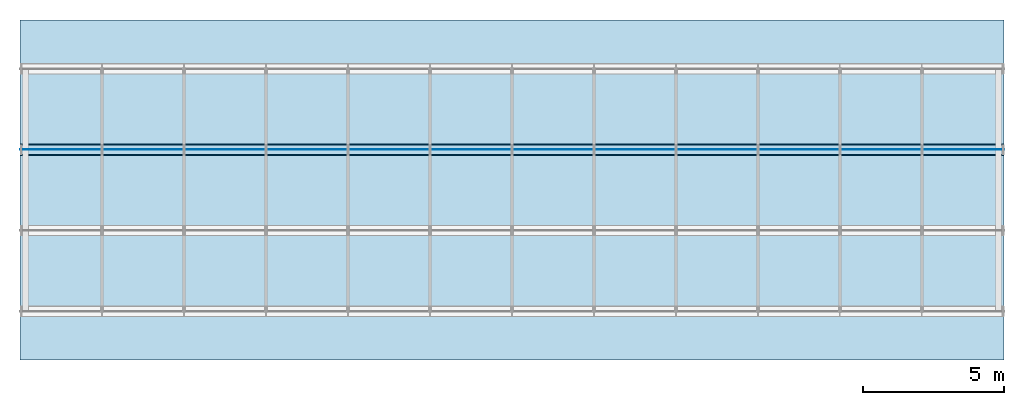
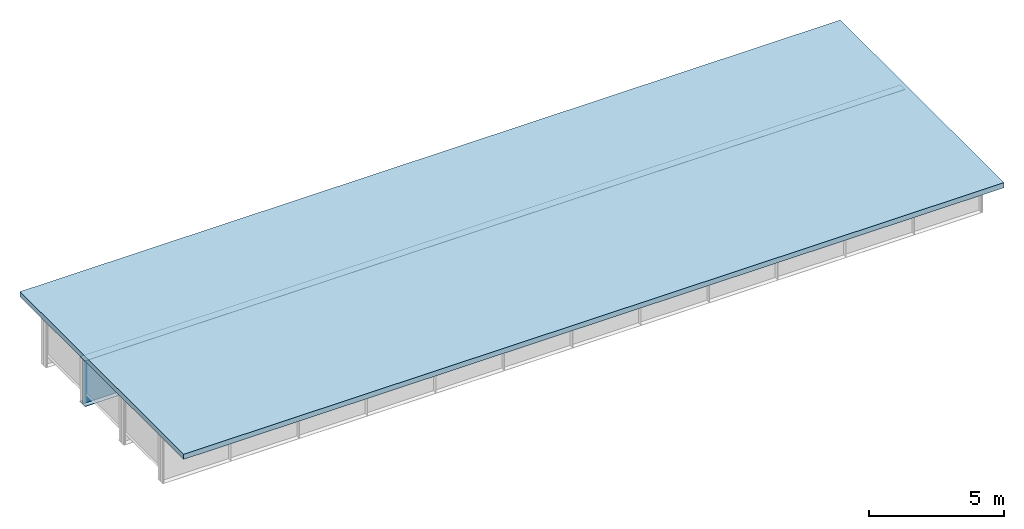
# One storey, part 9 of 13: 3 plates, 1 slab.
"""IFC4 building model written with IfcOpenShell, lengths in metres."""

import ifcopenshell
import ifcopenshell.guid

model = None  # the IFC model being written
_history = None  # IfcOwnerHistory: only IFC2X3 demands one
_inside = {}  # id of a spatial element -> (the spatial element, [elements in it])
_under = {}  # id of a project, library or spatial element -> (it, [spatial elements below it])
_declared = {}  # id of a project -> (the project, [libraries it declares])
_typed = {}  # id of a type object -> (the type object, [elements of that type])
_made_of = {}  # id of a material, layer set ... -> (it, [elements and type objects made of it])


def new_model(schema):
    """Start an empty IFC model of exactly this schema.

    Asked for "IFC4X3", IfcOpenShell would pick the latest addendum, in which some entities
    have other attributes; the version numbers below select the first issue.
    IFC2X3 requires an IfcOwnerHistory on every rooted entity: one is made here for all.
    """
    global model, _history
    if schema == "IFC4X3":
        model = ifcopenshell.file(schema_version=(4, 3, 0, 0))
    else:
        model = ifcopenshell.file(schema=schema)
    _inside.clear()
    _under.clear()
    _declared.clear()
    _typed.clear()
    _made_of.clear()
    _history = None
    if model.schema == "IFC2X3":
        org = make("IfcOrganization", Name="unknown")
        user = make(
            "IfcPersonAndOrganization",
            ThePerson=make("IfcPerson", FamilyName="unknown"),
            TheOrganization=org,
        )
        app = make(
            "IfcApplication",
            ApplicationDeveloper=org,
            Version="unknown",
            ApplicationFullName="unknown",
            ApplicationIdentifier="unknown",
        )
        _history = make(
            "IfcOwnerHistory",
            OwningUser=user,
            OwningApplication=app,
            ChangeAction="ADDED",
            CreationDate=0,
        )
    return model


def make(cls, **values):
    """One entity of the class cls with the attributes given. An attribute that is None is left unset."""
    return model.create_entity(
        cls, **{name: value for name, value in values.items() if value is not None}
    )


def rooted(cls, **values):
    """An entity with a GlobalId (a new one), such as an element, a storey or a relation."""
    return make(cls, GlobalId=ifcopenshell.guid.new(), OwnerHistory=_history, **values)


def si_unit(unit_type, name, prefix=None):
    """IfcSIUnit, for example si_unit("LENGTHUNIT", "METRE", prefix="MILLI")."""
    return make("IfcSIUnit", UnitType=unit_type, Prefix=prefix, Name=name)


def assignment(units):
    """IfcUnitAssignment: the units of a project."""
    return None if units is None else make("IfcUnitAssignment", Units=units)


def point(xyz):
    """IfcCartesianPoint."""
    return None if xyz is None else make("IfcCartesianPoint", Coordinates=xyz)


def direction(xyz):
    """IfcDirection."""
    return None if xyz is None else make("IfcDirection", DirectionRatios=xyz)


def frame(location, z_axis=None, x_axis=None):
    """IfcAxis2Placement3D, a coordinate frame: its origin and axes. An axis left out is left unset."""
    return make(
        "IfcAxis2Placement3D",
        Location=point(location),
        Axis=direction(z_axis),
        RefDirection=direction(x_axis),
    )


def frame_2d(location, x_axis=None):
    """IfcAxis2Placement2D, a coordinate frame in the plane: its origin and x axis."""
    return make(
        "IfcAxis2Placement2D", Location=point(location), RefDirection=direction(x_axis)
    )


def origin():
    """The frame at (0, 0, 0) with its axes left unset."""
    return frame((0.0, 0.0, 0.0))


def origin_with_axes():
    """The frame at (0, 0, 0) with the z axis (0, 0, 1) and the x axis (1, 0, 0) written out."""
    return frame((0.0, 0.0, 0.0), z_axis=(0.0, 0.0, 1.0), x_axis=(1.0, 0.0, 0.0))


def origin_2d_with_axis():
    """The frame at (0, 0) in the plane with the x axis (1, 0) written out."""
    return frame_2d((0.0, 0.0), x_axis=(1.0, 0.0))


def place(relative_to, where):
    """IfcLocalPlacement: puts the frame where relative to a parent placement (None: the world)."""
    return make(
        "IfcLocalPlacement", PlacementRelTo=relative_to, RelativePlacement=where
    )


def context(
    kind, dimensions, precision=None, world=None, true_north=None, identifier=None
):
    """IfcGeometricRepresentationContext, for example the 3D "Model" context."""
    return make(
        "IfcGeometricRepresentationContext",
        ContextIdentifier=identifier,
        ContextType=kind,
        CoordinateSpaceDimension=dimensions,
        Precision=precision,
        WorldCoordinateSystem=world,
        TrueNorth=true_north,
    )


def subcontext(parent, identifier, kind, view, scale=None):
    """IfcGeometricRepresentationSubContext, for example "Body" below "Model"."""
    return make(
        "IfcGeometricRepresentationSubContext",
        ContextIdentifier=identifier,
        ContextType=kind,
        ParentContext=parent,
        TargetScale=scale,
        TargetView=view,
    )


def project(units=None, contexts=None):
    """IfcProject with its units and contexts."""
    return rooted(
        "IfcProject",
        Name="project",
        RepresentationContexts=contexts,
        UnitsInContext=assignment(units),
    )


def spatial(cls, under=None, at=None, **own):
    """A site, building, storey or space (cls), placed at a placement, below another one or the project."""
    s = rooted(cls, ObjectPlacement=at, **own)
    if under is not None:
        _under.setdefault(under.id(), (under, []))[1].append(s)
    return s


def polyline(points):
    """IfcPolyline through the points."""
    return make("IfcPolyline", Points=[point(p) for p in points])


def profile(cls, at=None, kind="AREA", **sizes):
    """A parametric profile (cls). Its sizes go by their IFC names, for example OverallWidth=200.0."""
    return make(cls, ProfileType=kind, Position=at, **sizes)


def rectangle(**sizes):
    """IfcRectangleProfileDef."""
    return profile("IfcRectangleProfileDef", **sizes)


def outline(outer, holes=None, kind="AREA"):
    """IfcArbitraryClosedProfileDef: a profile drawn as a closed curve; with holes, ...WithVoids."""
    if holes is None:
        return make("IfcArbitraryClosedProfileDef", ProfileType=kind, OuterCurve=outer)
    return make(
        "IfcArbitraryProfileDefWithVoids",
        ProfileType=kind,
        OuterCurve=outer,
        InnerCurves=holes,
    )


def extrude(swept, where, along, depth):
    """IfcExtrudedAreaSolid: the profile swept, set in the frame where, extruded along a direction by depth."""
    return make(
        "IfcExtrudedAreaSolid",
        SweptArea=swept,
        Position=where,
        ExtrudedDirection=direction(along),
        Depth=depth,
    )


def shape(context_of_items, identifier, shape_type, items):
    """IfcShapeRepresentation: the items that make up one representation, for example the "Body"."""
    return make(
        "IfcShapeRepresentation",
        ContextOfItems=context_of_items,
        RepresentationIdentifier=identifier,
        RepresentationType=shape_type,
        Items=items,
    )


def made_of(thing, what):
    """Note that an element or type object is made of a material, layer set ...; save() writes the relation."""
    if what is not None:
        _made_of.setdefault(what.id(), (what, []))[1].append(thing)
    return thing


def element(
    cls,
    number,
    at=None,
    inside=None,
    cuts=None,
    type_object=None,
    material=None,
    context=None,
    identifier="Body",
    shape_type=None,
    held_by="IfcProductDefinitionShape",
    body=None,
    shapes=None,
    **own,
):
    """One element of the class cls, such as IfcWall. Its Tag is "e" and its number.

    at: its placement. inside: the storey or other place that contains it. cuts: it is an
    opening in that element (IfcRelVoidsElement). A single representation is given by context,
    identifier, shape_type and body (its items); several are given by shapes. held_by: the class
    of the entity that holds the representations. save() writes the other relations.
    """
    e = rooted(cls, Tag="e%d" % number, ObjectPlacement=at, **own)
    if body is not None:
        shapes = [shape(context, identifier, shape_type, body)]
    if shapes is not None:
        e.Representation = make(held_by, Representations=shapes)
    if inside is not None:
        _inside.setdefault(inside.id(), (inside, []))[1].append(e)
    if cuts is not None:
        rooted(
            "IfcRelVoidsElement", RelatingBuildingElement=cuts, RelatedOpeningElement=e
        )
    if type_object is not None:
        _typed.setdefault(type_object.id(), (type_object, []))[1].append(e)
    return made_of(e, material)


def aggregate(whole, parts):
    """IfcRelAggregates: a whole, such as a stair, and the parts it consists of."""
    return rooted("IfcRelAggregates", RelatingObject=whole, RelatedObjects=parts)


def save(model, path):
    """Write the relations noted so far, then the file.

    IfcRelAggregates (storeys below a building ...), IfcRelContainedInSpatialStructure (elements
    in a storey), IfcRelDefinesByType, IfcRelAssociatesMaterial and IfcRelDeclares: one each for
    every whole, place, type object, material and project.
    """
    for whole, parts in _under.values():
        aggregate(whole, parts)
    for where, things in _inside.values():
        rooted(
            "IfcRelContainedInSpatialStructure",
            RelatedElements=things,
            RelatingStructure=where,
        )
    for kind, things in _typed.values():
        rooted("IfcRelDefinesByType", RelatedObjects=things, RelatingType=kind)
    for what, things in _made_of.values():
        rooted("IfcRelAssociatesMaterial", RelatedObjects=things, RelatingMaterial=what)
    for by, libraries in _declared.values():
        rooted("IfcRelDeclares", RelatingContext=by, RelatedDefinitions=libraries)
    model.write(path)


model = new_model("IFC4")

# Units and contexts
model_context = context("Model", 3, precision=1e-05, world=origin())
body_context = subcontext(model_context, "Body", "Model", "MODEL_VIEW")
ifc_project = project(units=[si_unit("LENGTHUNIT", "METRE"), si_unit("AREAUNIT", "SQUARE_METRE"), si_unit("VOLUMEUNIT", "CUBIC_METRE"), si_unit("PLANEANGLEUNIT", "RADIAN")], contexts=[model_context])

# Site, building, storey
site_placement = place(None, origin_with_axes())
site = spatial("IfcSite", under=ifc_project, at=site_placement, Name="Default Site")
building_placement = place(site_placement, origin_with_axes())
building = spatial("IfcBuilding", under=site, at=building_placement, Name="Bridge Structure")
storey_placement = place(building_placement, origin_with_axes())
storey = spatial("IfcBuildingStorey", under=building, at=storey_placement, Name="Superstructure")

# Plates
plate_1_placement = place(storey_placement, frame((0.0, 1.4375, 0.0), z_axis=(1.0, 0.0, 0.0), x_axis=(0.0, 1.0, 0.0)))
element("IfcPlate", 1, at=plate_1_placement, inside=storey, Name="Girder Web 3", context=body_context, shape_type="SweptSolid", body=[
    extrude(rectangle(XDim=0.014, YDim=2.012, at=origin_2d_with_axis()), origin_with_axes(), (0.0, 0.0, 1.0), 35.0),
])
plate_2_placement = place(storey_placement, frame((0.0, 1.4375, 1.0150000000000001), z_axis=(1.0, 0.0, 0.0), x_axis=(0.0, 1.0, 0.0)))
element("IfcPlate", 2, at=plate_2_placement, inside=storey, Name="Top Flange 3", context=body_context, shape_type="SweptSolid", body=[
    extrude(rectangle(XDim=0.35000000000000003, YDim=0.018000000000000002, at=origin_2d_with_axis()), origin_with_axes(), (0.0, 0.0, 1.0), 35.0),
])
plate_3_placement = place(storey_placement, frame((0.0, 1.4375, -1.016), z_axis=(1.0, 0.0, 0.0), x_axis=(0.0, 1.0, 0.0)))
element("IfcPlate", 3, at=plate_3_placement, inside=storey, Name="Bottom Flange 3", context=body_context, shape_type="SweptSolid", body=[
    extrude(rectangle(XDim=0.4, YDim=0.02, at=origin_2d_with_axis()), origin_with_axes(), (0.0, 0.0, 1.0), 35.0),
])

# Slab
slab_placement = place(storey_placement, frame((0.0, 0.0, 1.024), z_axis=(0.0, 0.0, 1.0), x_axis=(1.0, 0.0, 0.0)))
element("IfcSlab", 4, at=slab_placement, inside=storey, Name="Deck Slab", context=body_context, shape_type="SweptSolid", body=[
    extrude(outline(polyline([(0.0, -6.05), (35.0, -6.05), (35.0, 6.05), (0.0, 6.05), (0.0, -6.05)])), origin_with_axes(), (0.0, 0.0, 1.0), 0.23),
])

save(model, "model.ifc")
